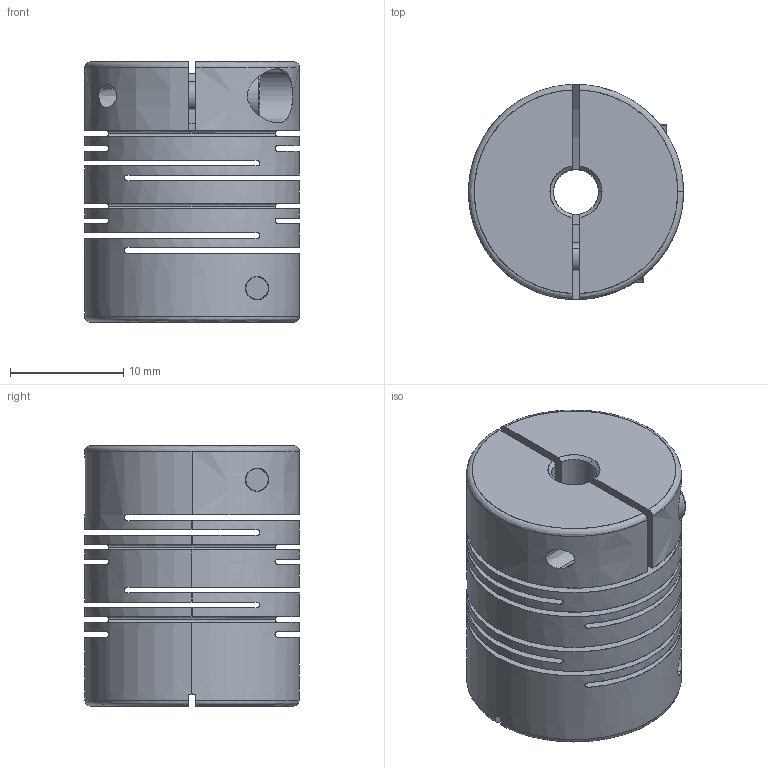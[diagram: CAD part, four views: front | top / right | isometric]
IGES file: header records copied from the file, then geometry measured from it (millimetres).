
Start section: SolidWorks IGES file using analytic representation for surfaces
Global section: file name: C:\Users\10118109\Desktop\肺磐府 浚内歹\1瞒 犁累己_2瞒 累诀_荐沥 器窃\ERB\ERB-A-19C-04 04.IGS; native system: SolidWorks 2018; preprocessor: SolidWorks 2018; author: 10118109; date: 190618.093708; units: millimetre
Bounding box: 19 x 19 x 23 mm (x, y, z)
Surface area: 6254.4 mm2 (no closed solid volume)
Topology: 0 solids, 0 shells, 159 faces, 2796 edges, 2792 vertices
Faces by surface type: revolution 82, bspline 77
